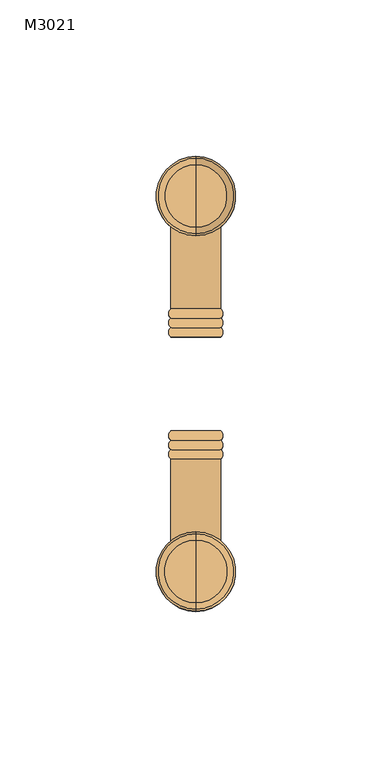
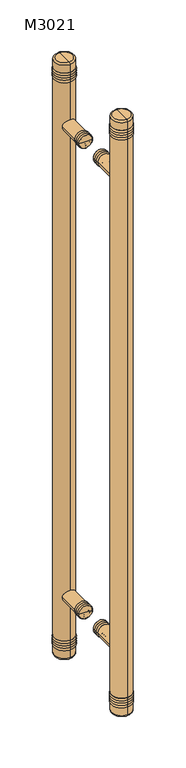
"""IFC4 building model written with IfcOpenShell, lengths in millimetres: door geometry, 双面嵌板连窗玻璃门 3 : M3021."""

from ifc_helpers import new_model, si_unit, point, frame, origin, place, context, project, spatial, circle_curve, ellipse_curve, trimmed, source, transform, mapped, element, save
from ifc_brep_helpers import plane_surface, cylinder_surface, revolved_surface, advanced_brep


def m3021_f616fdb8(model_context):
    return source(origin(), model_context, "Body", "AdvancedBrep", [
        advanced_brep(
        [(60.0, 15.0, 1300.0), (52.0, 15.0, 1300.0), (68.0, 15.0, 1300.0), (68.0, 24.0, 1300.0), (52.0, 24.0, 1300.0), (60.0, 24.0, 1300.0), (68.0, 21.0, 1300.0), (52.0, 21.0, 1300.0), (68.0, 18.0, 1300.0), (52.0, 18.0, 1300.0)],
        [
            (0, 1),
            (1, 2, circle_curve(frame((60.0, 15.0, 1300.0), z_axis=(0.0, -1.0, 0.0), x_axis=(-1.0, 0.0, 0.0)), 8.0)),
            (2, 0),
            (2, 1, circle_curve(frame((60.0, 15.0, 1300.0), z_axis=(0.0, -1.0, 0.0), x_axis=(-1.0, 0.0, 0.0)), 8.0)),
            (3, 4, circle_curve(frame((60.0, 24.0, 1300.0), z_axis=(0.0, 1.0, 0.0), x_axis=(-1.0, 0.0, 0.0)), 8.0)),
            (4, 5),
            (5, 3),
            (4, 3, circle_curve(frame((60.0, 24.0, 1300.0), z_axis=(0.0, 1.0, 0.0), x_axis=(-1.0, 0.0, 0.0)), 8.0)),
            (6, 7, circle_curve(frame((60.0, 21.0, 1300.0), z_axis=(0.0, 1.0, 0.0), x_axis=(-1.0, 0.0, 0.0)), 8.0)),
            (7, 4, circle_curve(frame((53.3228757, 22.5, 1300.0), z_axis=(0.0, 0.0, -1.0), x_axis=(-1.0, 0.0, 0.0)), 2.0)),
            (3, 6, circle_curve(frame((66.6771243, 22.5, 1300.0), z_axis=(0.0, 0.0, -1.0), x_axis=(1.0, 0.0, 0.0)), 2.0)),
            (7, 6, circle_curve(frame((60.0, 21.0, 1300.0), z_axis=(0.0, 1.0, 0.0), x_axis=(-1.0, 0.0, 0.0)), 8.0)),
            (8, 9, circle_curve(frame((60.0, 18.0, 1300.0), z_axis=(0.0, 1.0, 0.0), x_axis=(-1.0, 0.0, 0.0)), 8.0)),
            (9, 7, circle_curve(frame((53.3228757, 19.5, 1300.0), z_axis=(0.0, 0.0, -1.0), x_axis=(-1.0, 0.0, 0.0)), 2.0)),
            (6, 8, circle_curve(frame((66.6771243, 19.5, 1300.0), z_axis=(0.0, 0.0, -1.0), x_axis=(1.0, 0.0, 0.0)), 2.0)),
            (9, 8, circle_curve(frame((60.0, 18.0, 1300.0), z_axis=(0.0, 1.0, 0.0), x_axis=(-1.0, 0.0, 0.0)), 8.0)),
            (1, 9, circle_curve(frame((53.3228757, 16.5, 1300.0), z_axis=(0.0, 0.0, -1.0), x_axis=(-1.0, 0.0, 0.0)), 2.0)),
            (8, 2, circle_curve(frame((66.6771243, 16.5, 1300.0), z_axis=(0.0, 0.0, -1.0), x_axis=(1.0, 0.0, 0.0)), 2.0)),
        ],
        [
            plane_surface(frame((60.0, 15.0, 1300.0), z_axis=(0.0, -1.0, 0.0), x_axis=(-1.0, 0.0, 0.0))),
            plane_surface(frame((60.0, 24.0, 1300.0), z_axis=(0.0, 1.0, 0.0), x_axis=(-1.0, 0.0, 0.0))),
            revolved_surface(trimmed(ellipse_curve(frame((53.3228757, 22.5, 1300.0), z_axis=(0.0, 0.0, 1.0), x_axis=(-1.0, 0.0, 0.0)), 2.0, 2.0), [point((52.0, 24.0, 1300.0))], [point((52.0, 21.0, 1300.0))], True, "CARTESIAN"), (60.0, -105.0, 1300.0), (0.0, -1.0, 0.0)),
            revolved_surface(trimmed(ellipse_curve(frame((53.3228757, 19.5, 1300.0), z_axis=(0.0, 0.0, 1.0), x_axis=(-1.0, 0.0, 0.0)), 2.0, 2.0), [point((52.0, 21.0, 1300.0))], [point((52.0, 18.0, 1300.0))], True, "CARTESIAN"), (60.0, -105.0, 1300.0), (0.0, -1.0, 0.0)),
            revolved_surface(trimmed(ellipse_curve(frame((53.3228757, 16.5, 1300.0), z_axis=(0.0, 0.0, 1.0), x_axis=(-1.0, 0.0, 0.0)), 2.0, 2.0), [point((52.0, 18.0, 1300.0))], [point((52.0, 15.0, 1300.0))], True, "CARTESIAN"), (60.0, -105.0, 1300.0), (0.0, -1.0, 0.0)),
        ],
        [
            (0, [[1, 2, 3]]),
            (0, [[-3, 4, -1]]),
            (1, [[5, 6, 7]]),
            (1, [[8, -7, -6]]),
            (2, [[9, 10, -5, 11]]),
            (2, [[12, -11, -8, -10]]),
            (3, [[13, 14, -9, 15]]),
            (3, [[16, -15, -12, -14]]),
            (4, [[-2, 17, -13, 18]]),
            (4, [[-4, -18, -16, -17]]),
        ],
    ),
        advanced_brep(
        [(68.0, -18.0, 1300.0), (52.0, -18.0, 1300.0), (52.0, -15.0, 1300.0), (68.0, -15.0, 1300.0), (68.0, -21.0, 1300.0), (52.0, -21.0, 1300.0), (68.0, -24.0, 1300.0), (52.0, -24.0, 1300.0), (60.0, -24.0, 1300.0), (60.0, -15.0, 1300.0)],
        [
            (0, 1, circle_curve(frame((60.0, -18.0, 1300.0), z_axis=(0.0, 1.0, 0.0), x_axis=(-1.0, 0.0, 0.0)), 8.0)),
            (1, 2, circle_curve(frame((53.3228757, -16.5, 1300.0), z_axis=(0.0, 0.0, -1.0), x_axis=(-1.0, 0.0, 0.0)), 2.0)),
            (2, 3, circle_curve(frame((60.0, -15.0, 1300.0), z_axis=(0.0, -1.0, 0.0), x_axis=(-1.0, 0.0, 0.0)), 8.0)),
            (3, 0, circle_curve(frame((66.6771243, -16.5, 1300.0), z_axis=(0.0, 0.0, -1.0), x_axis=(1.0, 0.0, 0.0)), 2.0)),
            (1, 0, circle_curve(frame((60.0, -18.0, 1300.0), z_axis=(0.0, 1.0, 0.0), x_axis=(-1.0, 0.0, 0.0)), 8.0)),
            (3, 2, circle_curve(frame((60.0, -15.0, 1300.0), z_axis=(0.0, -1.0, 0.0), x_axis=(-1.0, 0.0, 0.0)), 8.0)),
            (4, 5, circle_curve(frame((60.0, -21.0, 1300.0), z_axis=(0.0, 1.0, 0.0), x_axis=(-1.0, 0.0, 0.0)), 8.0)),
            (5, 1, circle_curve(frame((53.3228757, -19.5, 1300.0), z_axis=(0.0, 0.0, -1.0), x_axis=(-1.0, 0.0, 0.0)), 2.0)),
            (0, 4, circle_curve(frame((66.6771243, -19.5, 1300.0), z_axis=(0.0, 0.0, -1.0), x_axis=(1.0, 0.0, 0.0)), 2.0)),
            (5, 4, circle_curve(frame((60.0, -21.0, 1300.0), z_axis=(0.0, 1.0, 0.0), x_axis=(-1.0, 0.0, 0.0)), 8.0)),
            (6, 7, circle_curve(frame((60.0, -24.0, 1300.0), z_axis=(0.0, 1.0, 0.0), x_axis=(-1.0, 0.0, 0.0)), 8.0)),
            (7, 5, circle_curve(frame((53.3228757, -22.5, 1300.0), z_axis=(0.0, 0.0, -1.0), x_axis=(-1.0, 0.0, 0.0)), 2.0)),
            (4, 6, circle_curve(frame((66.6771243, -22.5, 1300.0), z_axis=(0.0, 0.0, -1.0), x_axis=(1.0, 0.0, 0.0)), 2.0)),
            (7, 6, circle_curve(frame((60.0, -24.0, 1300.0), z_axis=(0.0, 1.0, 0.0), x_axis=(-1.0, 0.0, 0.0)), 8.0)),
            (8, 7),
            (6, 8),
            (2, 9),
            (9, 3),
        ],
        [
            revolved_surface(trimmed(ellipse_curve(frame((53.3228757, -16.5, 1300.0), z_axis=(0.0, 0.0, 1.0), x_axis=(-1.0, 0.0, 0.0)), 2.0, 2.0), [point((52.0, -15.0, 1300.0))], [point((52.0, -18.0, 1300.0))], True, "CARTESIAN"), (60.0, -105.0, 1300.0), (0.0, -1.0, 0.0)),
            revolved_surface(trimmed(ellipse_curve(frame((53.3228757, -19.5, 1300.0), z_axis=(0.0, 0.0, 1.0), x_axis=(-1.0, 0.0, 0.0)), 2.0, 2.0), [point((52.0, -18.0, 1300.0))], [point((52.0, -21.0, 1300.0))], True, "CARTESIAN"), (60.0, -105.0, 1300.0), (0.0, -1.0, 0.0)),
            revolved_surface(trimmed(ellipse_curve(frame((53.3228757, -22.5, 1300.0), z_axis=(0.0, 0.0, 1.0), x_axis=(-1.0, 0.0, 0.0)), 2.0, 2.0), [point((52.0, -21.0, 1300.0))], [point((52.0, -24.0, 1300.0))], True, "CARTESIAN"), (60.0, -105.0, 1300.0), (0.0, -1.0, 0.0)),
            plane_surface(frame((60.0, -24.0, 1300.0), z_axis=(0.0, -1.0, 0.0), x_axis=(-1.0, 0.0, 0.0))),
            plane_surface(frame((60.0, -15.0, 1300.0), z_axis=(0.0, 1.0, 0.0), x_axis=(-1.0, 0.0, 0.0))),
        ],
        [
            (0, [[1, 2, 3, 4]]),
            (0, [[5, -4, 6, -2]]),
            (1, [[7, 8, -1, 9]]),
            (1, [[10, -9, -5, -8]]),
            (2, [[11, 12, -7, 13]]),
            (2, [[14, -13, -10, -12]]),
            (3, [[15, -11, 16]]),
            (3, [[-16, -14, -15]]),
            (4, [[-3, 17, 18]]),
            (4, [[-6, -18, -17]]),
        ],
    ),
        advanced_brep(
        [(60.0, 15.0, 700.0), (52.0, 15.0, 700.0), (68.0, 15.0, 700.0), (68.0, 24.0, 700.0), (52.0, 24.0, 700.0), (60.0, 24.0, 700.0), (68.0, 21.0, 700.0), (52.0, 21.0, 700.0), (68.0, 18.0, 700.0), (52.0, 18.0, 700.0)],
        [
            (0, 1),
            (1, 2, circle_curve(frame((60.0, 15.0, 700.0), z_axis=(0.0, -1.0, 0.0), x_axis=(-1.0, 0.0, 0.0)), 8.0)),
            (2, 0),
            (2, 1, circle_curve(frame((60.0, 15.0, 700.0), z_axis=(0.0, -1.0, 0.0), x_axis=(-1.0, 0.0, 0.0)), 8.0)),
            (3, 4, circle_curve(frame((60.0, 24.0, 700.0), z_axis=(0.0, 1.0, 0.0), x_axis=(-1.0, 0.0, 0.0)), 8.0)),
            (4, 5),
            (5, 3),
            (4, 3, circle_curve(frame((60.0, 24.0, 700.0), z_axis=(0.0, 1.0, 0.0), x_axis=(-1.0, 0.0, 0.0)), 8.0)),
            (6, 7, circle_curve(frame((60.0, 21.0, 700.0), z_axis=(0.0, 1.0, 0.0), x_axis=(-1.0, 0.0, 0.0)), 8.0)),
            (7, 4, circle_curve(frame((53.3228757, 22.5, 700.0), z_axis=(0.0, 0.0, -1.0), x_axis=(-1.0, 0.0, 0.0)), 2.0)),
            (3, 6, circle_curve(frame((66.6771243, 22.5, 700.0), z_axis=(0.0, 0.0, -1.0), x_axis=(1.0, 0.0, 0.0)), 2.0)),
            (7, 6, circle_curve(frame((60.0, 21.0, 700.0), z_axis=(0.0, 1.0, 0.0), x_axis=(-1.0, 0.0, 0.0)), 8.0)),
            (8, 9, circle_curve(frame((60.0, 18.0, 700.0), z_axis=(0.0, 1.0, 0.0), x_axis=(-1.0, 0.0, 0.0)), 8.0)),
            (9, 7, circle_curve(frame((53.3228757, 19.5, 700.0), z_axis=(0.0, 0.0, -1.0), x_axis=(-1.0, 0.0, 0.0)), 2.0)),
            (6, 8, circle_curve(frame((66.6771243, 19.5, 700.0), z_axis=(0.0, 0.0, -1.0), x_axis=(1.0, 0.0, 0.0)), 2.0)),
            (9, 8, circle_curve(frame((60.0, 18.0, 700.0), z_axis=(0.0, 1.0, 0.0), x_axis=(-1.0, 0.0, 0.0)), 8.0)),
            (1, 9, circle_curve(frame((53.3228757, 16.5, 700.0), z_axis=(0.0, 0.0, -1.0), x_axis=(-1.0, 0.0, 0.0)), 2.0)),
            (8, 2, circle_curve(frame((66.6771243, 16.5, 700.0), z_axis=(0.0, 0.0, -1.0), x_axis=(1.0, 0.0, 0.0)), 2.0)),
        ],
        [
            plane_surface(frame((60.0, 15.0, 700.0), z_axis=(0.0, -1.0, 0.0), x_axis=(-1.0, 0.0, 0.0))),
            plane_surface(frame((60.0, 24.0, 700.0), z_axis=(0.0, 1.0, 0.0), x_axis=(-1.0, 0.0, 0.0))),
            revolved_surface(trimmed(ellipse_curve(frame((53.3228757, 22.5, 700.0), z_axis=(0.0, 0.0, 1.0), x_axis=(-1.0, 0.0, 0.0)), 2.0, 2.0), [point((52.0, 24.0, 700.0))], [point((52.0, 21.0, 700.0))], True, "CARTESIAN"), (60.0, -105.0, 700.0), (0.0, -1.0, 0.0)),
            revolved_surface(trimmed(ellipse_curve(frame((53.3228757, 19.5, 700.0), z_axis=(0.0, 0.0, 1.0), x_axis=(-1.0, 0.0, 0.0)), 2.0, 2.0), [point((52.0, 21.0, 700.0))], [point((52.0, 18.0, 700.0))], True, "CARTESIAN"), (60.0, -105.0, 700.0), (0.0, -1.0, 0.0)),
            revolved_surface(trimmed(ellipse_curve(frame((53.3228757, 16.5, 700.0), z_axis=(0.0, 0.0, 1.0), x_axis=(-1.0, 0.0, 0.0)), 2.0, 2.0), [point((52.0, 18.0, 700.0))], [point((52.0, 15.0, 700.0))], True, "CARTESIAN"), (60.0, -105.0, 700.0), (0.0, -1.0, 0.0)),
        ],
        [
            (0, [[1, 2, 3]]),
            (0, [[-3, 4, -1]]),
            (1, [[5, 6, 7]]),
            (1, [[8, -7, -6]]),
            (2, [[9, 10, -5, 11]]),
            (2, [[12, -11, -8, -10]]),
            (3, [[13, 14, -9, 15]]),
            (3, [[16, -15, -12, -14]]),
            (4, [[-2, 17, -13, 18]]),
            (4, [[-4, -18, -16, -17]]),
        ],
    ),
        advanced_brep(
        [(68.0, -18.0, 700.0), (52.0, -18.0, 700.0), (52.0, -15.0, 700.0), (68.0, -15.0, 700.0), (68.0, -21.0, 700.0), (52.0, -21.0, 700.0), (68.0, -24.0, 700.0), (52.0, -24.0, 700.0), (60.0, -24.0, 700.0), (60.0, -15.0, 700.0)],
        [
            (0, 1, circle_curve(frame((60.0, -18.0, 700.0), z_axis=(0.0, 1.0, 0.0), x_axis=(-1.0, 0.0, 0.0)), 8.0)),
            (1, 2, circle_curve(frame((53.3228757, -16.5, 700.0), z_axis=(0.0, 0.0, -1.0), x_axis=(-1.0, 0.0, 0.0)), 2.0)),
            (2, 3, circle_curve(frame((60.0, -15.0, 700.0), z_axis=(0.0, -1.0, 0.0), x_axis=(-1.0, 0.0, 0.0)), 8.0)),
            (3, 0, circle_curve(frame((66.6771243, -16.5, 700.0), z_axis=(0.0, 0.0, -1.0), x_axis=(1.0, 0.0, 0.0)), 2.0)),
            (1, 0, circle_curve(frame((60.0, -18.0, 700.0), z_axis=(0.0, 1.0, 0.0), x_axis=(-1.0, 0.0, 0.0)), 8.0)),
            (3, 2, circle_curve(frame((60.0, -15.0, 700.0), z_axis=(0.0, -1.0, 0.0), x_axis=(-1.0, 0.0, 0.0)), 8.0)),
            (4, 5, circle_curve(frame((60.0, -21.0, 700.0), z_axis=(0.0, 1.0, 0.0), x_axis=(-1.0, 0.0, 0.0)), 8.0)),
            (5, 1, circle_curve(frame((53.3228757, -19.5, 700.0), z_axis=(0.0, 0.0, -1.0), x_axis=(-1.0, 0.0, 0.0)), 2.0)),
            (0, 4, circle_curve(frame((66.6771243, -19.5, 700.0), z_axis=(0.0, 0.0, -1.0), x_axis=(1.0, 0.0, 0.0)), 2.0)),
            (5, 4, circle_curve(frame((60.0, -21.0, 700.0), z_axis=(0.0, 1.0, 0.0), x_axis=(-1.0, 0.0, 0.0)), 8.0)),
            (6, 7, circle_curve(frame((60.0, -24.0, 700.0), z_axis=(0.0, 1.0, 0.0), x_axis=(-1.0, 0.0, 0.0)), 8.0)),
            (7, 5, circle_curve(frame((53.3228757, -22.5, 700.0), z_axis=(0.0, 0.0, -1.0), x_axis=(-1.0, 0.0, 0.0)), 2.0)),
            (4, 6, circle_curve(frame((66.6771243, -22.5, 700.0), z_axis=(0.0, 0.0, -1.0), x_axis=(1.0, 0.0, 0.0)), 2.0)),
            (7, 6, circle_curve(frame((60.0, -24.0, 700.0), z_axis=(0.0, 1.0, 0.0), x_axis=(-1.0, 0.0, 0.0)), 8.0)),
            (8, 7),
            (6, 8),
            (2, 9),
            (9, 3),
        ],
        [
            revolved_surface(trimmed(ellipse_curve(frame((53.3228757, -16.5, 700.0), z_axis=(0.0, 0.0, 1.0), x_axis=(-1.0, 0.0, 0.0)), 2.0, 2.0), [point((52.0, -15.0, 700.0))], [point((52.0, -18.0, 700.0))], True, "CARTESIAN"), (60.0, -105.0, 700.0), (0.0, -1.0, 0.0)),
            revolved_surface(trimmed(ellipse_curve(frame((53.3228757, -19.5, 700.0), z_axis=(0.0, 0.0, 1.0), x_axis=(-1.0, 0.0, 0.0)), 2.0, 2.0), [point((52.0, -18.0, 700.0))], [point((52.0, -21.0, 700.0))], True, "CARTESIAN"), (60.0, -105.0, 700.0), (0.0, -1.0, 0.0)),
            revolved_surface(trimmed(ellipse_curve(frame((53.3228757, -22.5, 700.0), z_axis=(0.0, 0.0, 1.0), x_axis=(-1.0, 0.0, 0.0)), 2.0, 2.0), [point((52.0, -21.0, 700.0))], [point((52.0, -24.0, 700.0))], True, "CARTESIAN"), (60.0, -105.0, 700.0), (0.0, -1.0, 0.0)),
            plane_surface(frame((60.0, -24.0, 700.0), z_axis=(0.0, -1.0, 0.0), x_axis=(-1.0, 0.0, 0.0))),
            plane_surface(frame((60.0, -15.0, 700.0), z_axis=(0.0, 1.0, 0.0), x_axis=(-1.0, 0.0, 0.0))),
        ],
        [
            (0, [[1, 2, 3, 4]]),
            (0, [[5, -4, 6, -2]]),
            (1, [[7, 8, -1, 9]]),
            (1, [[10, -9, -5, -8]]),
            (2, [[11, 12, -7, 13]]),
            (2, [[14, -13, -10, -12]]),
            (3, [[15, -11, 16]]),
            (3, [[-16, -14, -15]]),
            (4, [[-3, 17, 18]]),
            (4, [[-6, -18, -17]]),
        ],
    ),
        advanced_brep(
        [(60.0, 48.0, 1356.0), (60.0, 72.0, 1356.0), (60.0, 60.0, 1356.0), (60.0, 48.0, 1359.0), (60.0, 72.0, 1359.0), (60.0, 48.0, 1362.0), (60.0, 72.0, 1362.0), (60.0, 48.0, 1365.0), (60.0, 72.0, 1365.0), (60.0, 48.0, 1368.0), (60.0, 72.0, 1368.0), (60.0, 60.0, 1368.0)],
        [
            (0, 1, circle_curve(frame((60.0, 60.0, 1356.0), z_axis=(0.0, 0.0, -1.0), x_axis=(0.0, 1.0, 0.0)), 12.0)),
            (1, 2),
            (2, 0),
            (1, 0, circle_curve(frame((60.0, 60.0, 1356.0), z_axis=(0.0, 0.0, -1.0), x_axis=(0.0, 1.0, 0.0)), 12.0)),
            (3, 4, circle_curve(frame((60.0, 60.0, 1359.0), z_axis=(0.0, 0.0, -1.0), x_axis=(0.0, 1.0, 0.0)), 12.0)),
            (4, 1, circle_curve(frame((60.0, 70.6771243, 1357.5), z_axis=(-1.0, 0.0, 0.0), x_axis=(0.0, 1.0, 0.0)), 2.0)),
            (0, 3, circle_curve(frame((60.0, 49.3228757, 1357.5), z_axis=(-1.0, 0.0, 0.0), x_axis=(0.0, -1.0, 0.0)), 2.0)),
            (4, 3, circle_curve(frame((60.0, 60.0, 1359.0), z_axis=(0.0, 0.0, -1.0), x_axis=(0.0, 1.0, 0.0)), 12.0)),
            (5, 6, circle_curve(frame((60.0, 60.0, 1362.0), z_axis=(0.0, 0.0, -1.0), x_axis=(0.0, 1.0, 0.0)), 12.0)),
            (6, 4, circle_curve(frame((60.0, 70.6771243, 1360.5), z_axis=(-1.0, 0.0, 0.0), x_axis=(0.0, 1.0, 0.0)), 2.0)),
            (3, 5, circle_curve(frame((60.0, 49.3228757, 1360.5), z_axis=(-1.0, 0.0, 0.0), x_axis=(0.0, -1.0, 0.0)), 2.0)),
            (6, 5, circle_curve(frame((60.0, 60.0, 1362.0), z_axis=(0.0, 0.0, -1.0), x_axis=(0.0, 1.0, 0.0)), 12.0)),
            (7, 8, circle_curve(frame((60.0, 60.0, 1365.0), z_axis=(0.0, 0.0, -1.0), x_axis=(0.0, 1.0, 0.0)), 12.0)),
            (8, 6, circle_curve(frame((60.0, 70.6771243, 1363.5), z_axis=(-1.0, 0.0, 0.0), x_axis=(0.0, 1.0, 0.0)), 2.0)),
            (5, 7, circle_curve(frame((60.0, 49.3228757, 1363.5), z_axis=(-1.0, 0.0, 0.0), x_axis=(0.0, -1.0, 0.0)), 2.0)),
            (8, 7, circle_curve(frame((60.0, 60.0, 1365.0), z_axis=(0.0, 0.0, -1.0), x_axis=(0.0, 1.0, 0.0)), 12.0)),
            (9, 10, circle_curve(frame((60.0, 60.0, 1368.0), z_axis=(0.0, 0.0, -1.0), x_axis=(0.0, 1.0, 0.0)), 12.0)),
            (10, 8, circle_curve(frame((60.0, 70.6771243, 1366.5), z_axis=(-1.0, 0.0, 0.0), x_axis=(0.0, 1.0, 0.0)), 2.0)),
            (7, 9, circle_curve(frame((60.0, 49.3228757, 1366.5), z_axis=(-1.0, 0.0, 0.0), x_axis=(0.0, -1.0, 0.0)), 2.0)),
            (10, 9, circle_curve(frame((60.0, 60.0, 1368.0), z_axis=(0.0, 0.0, -1.0), x_axis=(0.0, 1.0, 0.0)), 12.0)),
            (11, 10),
            (9, 11),
        ],
        [
            plane_surface(frame((60.0, 60.0, 1356.0), z_axis=(0.0, 0.0, -1.0), x_axis=(0.0, 1.0, 0.0))),
            revolved_surface(trimmed(ellipse_curve(frame((60.0, 70.6771243, 1357.5), z_axis=(1.0, 0.0, 0.0), x_axis=(0.0, 1.0, 0.0)), 2.0, 2.0), [point((60.0, 72.0, 1356.0))], [point((60.0, 72.0, 1359.0))], True, "CARTESIAN"), (60.0, 60.0, 690.0), (0.0, 0.0, 1.0)),
            revolved_surface(trimmed(ellipse_curve(frame((60.0, 70.6771243, 1360.5), z_axis=(1.0, 0.0, 0.0), x_axis=(0.0, 1.0, 0.0)), 2.0, 2.0), [point((60.0, 72.0, 1359.0))], [point((60.0, 72.0, 1362.0))], True, "CARTESIAN"), (60.0, 60.0, 690.0), (0.0, 0.0, 1.0)),
            revolved_surface(trimmed(ellipse_curve(frame((60.0, 70.6771243, 1363.5), z_axis=(1.0, 0.0, 0.0), x_axis=(0.0, 1.0, 0.0)), 2.0, 2.0), [point((60.0, 72.0, 1362.0))], [point((60.0, 72.0, 1365.0))], True, "CARTESIAN"), (60.0, 60.0, 690.0), (0.0, 0.0, 1.0)),
            revolved_surface(trimmed(ellipse_curve(frame((60.0, 70.6771243, 1366.5), z_axis=(1.0, 0.0, 0.0), x_axis=(0.0, 1.0, 0.0)), 2.0, 2.0), [point((60.0, 72.0, 1365.0))], [point((60.0, 72.0, 1368.0))], True, "CARTESIAN"), (60.0, 60.0, 690.0), (0.0, 0.0, 1.0)),
            plane_surface(frame((60.0, 60.0, 1368.0), z_axis=(0.0, 0.0, 1.0), x_axis=(0.0, 1.0, 0.0))),
        ],
        [
            (0, [[1, 2, 3]]),
            (0, [[4, -3, -2]]),
            (1, [[5, 6, -1, 7]]),
            (1, [[8, -7, -4, -6]]),
            (2, [[9, 10, -5, 11]]),
            (2, [[12, -11, -8, -10]]),
            (3, [[13, 14, -9, 15]]),
            (3, [[16, -15, -12, -14]]),
            (4, [[17, 18, -13, 19]]),
            (4, [[20, -19, -16, -18]]),
            (5, [[21, -17, 22]]),
            (5, [[-22, -20, -21]]),
        ],
    ),
        advanced_brep(
        [(60.0, 48.0, 632.0), (60.0, 72.0, 632.0), (60.0, 60.0, 632.0), (60.0, 48.0, 635.0), (60.0, 72.0, 635.0), (60.0, 48.0, 638.0), (60.0, 72.0, 638.0), (60.0, 48.0, 641.0), (60.0, 72.0, 641.0), (60.0, 48.0, 644.0), (60.0, 72.0, 644.0), (60.0, 60.0, 644.0)],
        [
            (0, 1, circle_curve(frame((60.0, 60.0, 632.0), z_axis=(0.0, 0.0, -1.0), x_axis=(0.0, 1.0, 0.0)), 12.0)),
            (1, 2),
            (2, 0),
            (1, 0, circle_curve(frame((60.0, 60.0, 632.0), z_axis=(0.0, 0.0, -1.0), x_axis=(0.0, 1.0, 0.0)), 12.0)),
            (3, 4, circle_curve(frame((60.0, 60.0, 635.0), z_axis=(0.0, 0.0, -1.0), x_axis=(0.0, 1.0, 0.0)), 12.0)),
            (4, 1, circle_curve(frame((60.0, 70.6771243, 633.5), z_axis=(-1.0, 0.0, 0.0), x_axis=(0.0, 1.0, 0.0)), 2.0)),
            (0, 3, circle_curve(frame((60.0, 49.3228757, 633.5), z_axis=(-1.0, 0.0, 0.0), x_axis=(0.0, -1.0, 0.0)), 2.0)),
            (4, 3, circle_curve(frame((60.0, 60.0, 635.0), z_axis=(0.0, 0.0, -1.0), x_axis=(0.0, 1.0, 0.0)), 12.0)),
            (5, 6, circle_curve(frame((60.0, 60.0, 638.0), z_axis=(0.0, 0.0, -1.0), x_axis=(0.0, 1.0, 0.0)), 12.0)),
            (6, 4, circle_curve(frame((60.0, 70.6771243, 636.5), z_axis=(-1.0, 0.0, 0.0), x_axis=(0.0, 1.0, 0.0)), 2.0)),
            (3, 5, circle_curve(frame((60.0, 49.3228757, 636.5), z_axis=(-1.0, 0.0, 0.0), x_axis=(0.0, -1.0, 0.0)), 2.0)),
            (6, 5, circle_curve(frame((60.0, 60.0, 638.0), z_axis=(0.0, 0.0, -1.0), x_axis=(0.0, 1.0, 0.0)), 12.0)),
            (7, 8, circle_curve(frame((60.0, 60.0, 641.0), z_axis=(0.0, 0.0, -1.0), x_axis=(0.0, 1.0, 0.0)), 12.0)),
            (8, 6, circle_curve(frame((60.0, 70.6771243, 639.5), z_axis=(-1.0, 0.0, 0.0), x_axis=(0.0, 1.0, 0.0)), 2.0)),
            (5, 7, circle_curve(frame((60.0, 49.3228757, 639.5), z_axis=(-1.0, 0.0, 0.0), x_axis=(0.0, -1.0, 0.0)), 2.0)),
            (8, 7, circle_curve(frame((60.0, 60.0, 641.0), z_axis=(0.0, 0.0, -1.0), x_axis=(0.0, 1.0, 0.0)), 12.0)),
            (9, 10, circle_curve(frame((60.0, 60.0, 644.0), z_axis=(0.0, 0.0, -1.0), x_axis=(0.0, 1.0, 0.0)), 12.0)),
            (10, 8, circle_curve(frame((60.0, 70.6771243, 642.5), z_axis=(-1.0, 0.0, 0.0), x_axis=(0.0, 1.0, 0.0)), 2.0)),
            (7, 9, circle_curve(frame((60.0, 49.3228757, 642.5), z_axis=(-1.0, 0.0, 0.0), x_axis=(0.0, -1.0, 0.0)), 2.0)),
            (10, 9, circle_curve(frame((60.0, 60.0, 644.0), z_axis=(0.0, 0.0, -1.0), x_axis=(0.0, 1.0, 0.0)), 12.0)),
            (11, 10),
            (9, 11),
        ],
        [
            plane_surface(frame((60.0, 60.0, 632.0), z_axis=(0.0, 0.0, -1.0), x_axis=(0.0, 1.0, 0.0))),
            revolved_surface(trimmed(ellipse_curve(frame((60.0, 70.6771243, 633.5), z_axis=(1.0, 0.0, 0.0), x_axis=(0.0, 1.0, 0.0)), 2.0, 2.0), [point((60.0, 72.0, 632.0))], [point((60.0, 72.0, 635.0))], True, "CARTESIAN"), (60.0, 60.0, 690.0), (0.0, 0.0, 1.0)),
            revolved_surface(trimmed(ellipse_curve(frame((60.0, 70.6771243, 636.5), z_axis=(1.0, 0.0, 0.0), x_axis=(0.0, 1.0, 0.0)), 2.0, 2.0), [point((60.0, 72.0, 635.0))], [point((60.0, 72.0, 638.0))], True, "CARTESIAN"), (60.0, 60.0, 690.0), (0.0, 0.0, 1.0)),
            revolved_surface(trimmed(ellipse_curve(frame((60.0, 70.6771243, 639.5), z_axis=(1.0, 0.0, 0.0), x_axis=(0.0, 1.0, 0.0)), 2.0, 2.0), [point((60.0, 72.0, 638.0))], [point((60.0, 72.0, 641.0))], True, "CARTESIAN"), (60.0, 60.0, 690.0), (0.0, 0.0, 1.0)),
            revolved_surface(trimmed(ellipse_curve(frame((60.0, 70.6771243, 642.5), z_axis=(1.0, 0.0, 0.0), x_axis=(0.0, 1.0, 0.0)), 2.0, 2.0), [point((60.0, 72.0, 641.0))], [point((60.0, 72.0, 644.0))], True, "CARTESIAN"), (60.0, 60.0, 690.0), (0.0, 0.0, 1.0)),
            plane_surface(frame((60.0, 60.0, 644.0), z_axis=(0.0, 0.0, 1.0), x_axis=(0.0, 1.0, 0.0))),
        ],
        [
            (0, [[1, 2, 3]]),
            (0, [[4, -3, -2]]),
            (1, [[5, 6, -1, 7]]),
            (1, [[8, -7, -4, -6]]),
            (2, [[9, 10, -5, 11]]),
            (2, [[12, -11, -8, -10]]),
            (3, [[13, 14, -9, 15]]),
            (3, [[16, -15, -12, -14]]),
            (4, [[17, 18, -13, 19]]),
            (4, [[20, -19, -16, -18]]),
            (5, [[21, -17, 22]]),
            (5, [[-22, -20, -21]]),
        ],
    ),
        advanced_brep(
        [(60.0, -48.0, 1364.8958565), (60.0, -72.0, 1364.8958565), (60.0, -72.0, 1367.8958565), (60.0, -48.0, 1367.8958565), (60.0, -48.0, 1361.8958565), (60.0, -72.0, 1361.8958565), (60.0, -48.0, 1358.8958565), (60.0, -72.0, 1358.8958565), (60.0, -48.0, 1355.8958565), (60.0, -72.0, 1355.8958565), (60.0, -60.0, 1355.8958565), (60.0, -60.0, 1367.8958565)],
        [
            (0, 1, circle_curve(frame((60.0, -60.0, 1364.8958565), z_axis=(0.0, 0.0, 1.0), x_axis=(0.0, -1.0, 0.0)), 12.0)),
            (1, 2, circle_curve(frame((60.0, -70.6771243, 1366.3958565), z_axis=(-1.0, 0.0, 0.0), x_axis=(0.0, 1.0, 0.0)), 2.0)),
            (2, 3, circle_curve(frame((60.0, -60.0, 1367.8958565), z_axis=(0.0, 0.0, -1.0), x_axis=(0.0, -1.0, 0.0)), 12.0)),
            (3, 0, circle_curve(frame((60.0, -49.3228757, 1366.3958565), z_axis=(-1.0, 0.0, 0.0), x_axis=(0.0, -1.0, 0.0)), 2.0)),
            (1, 0, circle_curve(frame((60.0, -60.0, 1364.8958565), z_axis=(0.0, 0.0, 1.0), x_axis=(0.0, -1.0, 0.0)), 12.0)),
            (3, 2, circle_curve(frame((60.0, -60.0, 1367.8958565), z_axis=(0.0, 0.0, -1.0), x_axis=(0.0, -1.0, 0.0)), 12.0)),
            (4, 5, circle_curve(frame((60.0, -60.0, 1361.8958565), z_axis=(0.0, 0.0, 1.0), x_axis=(0.0, -1.0, 0.0)), 12.0)),
            (5, 1, circle_curve(frame((60.0, -70.6771243, 1363.3958565), z_axis=(-1.0, 0.0, 0.0), x_axis=(0.0, 1.0, 0.0)), 2.0)),
            (0, 4, circle_curve(frame((60.0, -49.3228757, 1363.3958565), z_axis=(-1.0, 0.0, 0.0), x_axis=(0.0, -1.0, 0.0)), 2.0)),
            (5, 4, circle_curve(frame((60.0, -60.0, 1361.8958565), z_axis=(0.0, 0.0, 1.0), x_axis=(0.0, -1.0, 0.0)), 12.0)),
            (6, 7, circle_curve(frame((60.0, -60.0, 1358.8958565), z_axis=(0.0, 0.0, 1.0), x_axis=(0.0, -1.0, 0.0)), 12.0)),
            (7, 5, circle_curve(frame((60.0, -70.6771243, 1360.3958565), z_axis=(-1.0, 0.0, 0.0), x_axis=(0.0, 1.0, 0.0)), 2.0)),
            (4, 6, circle_curve(frame((60.0, -49.3228757, 1360.3958565), z_axis=(-1.0, 0.0, 0.0), x_axis=(0.0, -1.0, 0.0)), 2.0)),
            (7, 6, circle_curve(frame((60.0, -60.0, 1358.8958565), z_axis=(0.0, 0.0, 1.0), x_axis=(0.0, -1.0, 0.0)), 12.0)),
            (8, 9, circle_curve(frame((60.0, -60.0, 1355.8958565), z_axis=(0.0, 0.0, 1.0), x_axis=(0.0, -1.0, 0.0)), 12.0)),
            (9, 7, circle_curve(frame((60.0, -70.6771243, 1357.3958565), z_axis=(-1.0, 0.0, 0.0), x_axis=(0.0, 1.0, 0.0)), 2.0)),
            (6, 8, circle_curve(frame((60.0, -49.3228757, 1357.3958565), z_axis=(-1.0, 0.0, 0.0), x_axis=(0.0, -1.0, 0.0)), 2.0)),
            (9, 8, circle_curve(frame((60.0, -60.0, 1355.8958565), z_axis=(0.0, 0.0, 1.0), x_axis=(0.0, -1.0, 0.0)), 12.0)),
            (10, 9),
            (8, 10),
            (2, 11),
            (11, 3),
        ],
        [
            revolved_surface(trimmed(ellipse_curve(frame((60.0, -70.6771243, 1366.3958565), z_axis=(1.0, 0.0, 0.0), x_axis=(0.0, 1.0, 0.0)), 2.0, 2.0), [point((60.0, -72.0, 1367.8958565))], [point((60.0, -72.0, 1364.8958565))], True, "CARTESIAN"), (60.0, -60.0, 690.0), (0.0, 0.0, -1.0)),
            revolved_surface(trimmed(ellipse_curve(frame((60.0, -70.6771243, 1363.3958565), z_axis=(1.0, 0.0, 0.0), x_axis=(0.0, 1.0, 0.0)), 2.0, 2.0), [point((60.0, -72.0, 1364.8958565))], [point((60.0, -72.0, 1361.8958565))], True, "CARTESIAN"), (60.0, -60.0, 690.0), (0.0, 0.0, -1.0)),
            revolved_surface(trimmed(ellipse_curve(frame((60.0, -70.6771243, 1360.3958565), z_axis=(1.0, 0.0, 0.0), x_axis=(0.0, 1.0, 0.0)), 2.0, 2.0), [point((60.0, -72.0, 1361.8958565))], [point((60.0, -72.0, 1358.8958565))], True, "CARTESIAN"), (60.0, -60.0, 690.0), (0.0, 0.0, -1.0)),
            revolved_surface(trimmed(ellipse_curve(frame((60.0, -70.6771243, 1357.3958565), z_axis=(1.0, 0.0, 0.0), x_axis=(0.0, 1.0, 0.0)), 2.0, 2.0), [point((60.0, -72.0, 1358.8958565))], [point((60.0, -72.0, 1355.8958565))], True, "CARTESIAN"), (60.0, -60.0, 690.0), (0.0, 0.0, -1.0)),
            plane_surface(frame((60.0, -60.0, 1355.8958565), z_axis=(0.0, 0.0, -1.0), x_axis=(0.0, -1.0, 0.0))),
            plane_surface(frame((60.0, -60.0, 1367.8958565), z_axis=(0.0, 0.0, 1.0), x_axis=(0.0, -1.0, 0.0))),
        ],
        [
            (0, [[1, 2, 3, 4]]),
            (0, [[5, -4, 6, -2]]),
            (1, [[7, 8, -1, 9]]),
            (1, [[10, -9, -5, -8]]),
            (2, [[11, 12, -7, 13]]),
            (2, [[14, -13, -10, -12]]),
            (3, [[15, 16, -11, 17]]),
            (3, [[18, -17, -14, -16]]),
            (4, [[19, -15, 20]]),
            (4, [[-20, -18, -19]]),
            (5, [[-3, 21, 22]]),
            (5, [[-6, -22, -21]]),
        ],
    ),
        advanced_brep(
        [(60.0, -48.0, 644.0), (60.0, -72.0, 644.0), (60.0, -60.0, 644.0), (60.0, -48.0, 641.0), (60.0, -72.0, 641.0), (60.0, -48.0, 638.0), (60.0, -72.0, 638.0), (60.0, -48.0, 635.0), (60.0, -72.0, 635.0), (60.0, -48.0, 632.0), (60.0, -72.0, 632.0), (60.0, -60.0, 632.0)],
        [
            (0, 1, circle_curve(frame((60.0, -60.0, 644.0), z_axis=(0.0, 0.0, 1.0), x_axis=(0.0, -1.0, 0.0)), 12.0)),
            (1, 2),
            (2, 0),
            (1, 0, circle_curve(frame((60.0, -60.0, 644.0), z_axis=(0.0, 0.0, 1.0), x_axis=(0.0, -1.0, 0.0)), 12.0)),
            (3, 4, circle_curve(frame((60.0, -60.0, 641.0), z_axis=(0.0, 0.0, 1.0), x_axis=(0.0, -1.0, 0.0)), 12.0)),
            (4, 1, circle_curve(frame((60.0, -70.6771243, 642.5), z_axis=(-1.0, 0.0, 0.0), x_axis=(0.0, 1.0, 0.0)), 2.0)),
            (0, 3, circle_curve(frame((60.0, -49.3228757, 642.5), z_axis=(-1.0, 0.0, 0.0), x_axis=(0.0, -1.0, 0.0)), 2.0)),
            (4, 3, circle_curve(frame((60.0, -60.0, 641.0), z_axis=(0.0, 0.0, 1.0), x_axis=(0.0, -1.0, 0.0)), 12.0)),
            (5, 6, circle_curve(frame((60.0, -60.0, 638.0), z_axis=(0.0, 0.0, 1.0), x_axis=(0.0, -1.0, 0.0)), 12.0)),
            (6, 4, circle_curve(frame((60.0, -70.6771243, 639.5), z_axis=(-1.0, 0.0, 0.0), x_axis=(0.0, 1.0, 0.0)), 2.0)),
            (3, 5, circle_curve(frame((60.0, -49.3228757, 639.5), z_axis=(-1.0, 0.0, 0.0), x_axis=(0.0, -1.0, 0.0)), 2.0)),
            (6, 5, circle_curve(frame((60.0, -60.0, 638.0), z_axis=(0.0, 0.0, 1.0), x_axis=(0.0, -1.0, 0.0)), 12.0)),
            (7, 8, circle_curve(frame((60.0, -60.0, 635.0), z_axis=(0.0, 0.0, 1.0), x_axis=(0.0, -1.0, 0.0)), 12.0)),
            (8, 6, circle_curve(frame((60.0, -70.6771243, 636.5), z_axis=(-1.0, 0.0, 0.0), x_axis=(0.0, 1.0, 0.0)), 2.0)),
            (5, 7, circle_curve(frame((60.0, -49.3228757, 636.5), z_axis=(-1.0, 0.0, 0.0), x_axis=(0.0, -1.0, 0.0)), 2.0)),
            (8, 7, circle_curve(frame((60.0, -60.0, 635.0), z_axis=(0.0, 0.0, 1.0), x_axis=(0.0, -1.0, 0.0)), 12.0)),
            (9, 10, circle_curve(frame((60.0, -60.0, 632.0), z_axis=(0.0, 0.0, 1.0), x_axis=(0.0, -1.0, 0.0)), 12.0)),
            (10, 8, circle_curve(frame((60.0, -70.6771243, 633.5), z_axis=(-1.0, 0.0, 0.0), x_axis=(0.0, 1.0, 0.0)), 2.0)),
            (7, 9, circle_curve(frame((60.0, -49.3228757, 633.5), z_axis=(-1.0, 0.0, 0.0), x_axis=(0.0, -1.0, 0.0)), 2.0)),
            (10, 9, circle_curve(frame((60.0, -60.0, 632.0), z_axis=(0.0, 0.0, 1.0), x_axis=(0.0, -1.0, 0.0)), 12.0)),
            (11, 10),
            (9, 11),
        ],
        [
            plane_surface(frame((60.0, -60.0, 644.0), z_axis=(0.0, 0.0, 1.0), x_axis=(0.0, -1.0, 0.0))),
            revolved_surface(trimmed(ellipse_curve(frame((60.0, -70.6771243, 642.5), z_axis=(1.0, 0.0, 0.0), x_axis=(0.0, 1.0, 0.0)), 2.0, 2.0), [point((60.0, -72.0, 644.0))], [point((60.0, -72.0, 641.0))], True, "CARTESIAN"), (60.0, -60.0, 690.0), (0.0, 0.0, -1.0)),
            revolved_surface(trimmed(ellipse_curve(frame((60.0, -70.6771243, 639.5), z_axis=(1.0, 0.0, 0.0), x_axis=(0.0, 1.0, 0.0)), 2.0, 2.0), [point((60.0, -72.0, 641.0))], [point((60.0, -72.0, 638.0))], True, "CARTESIAN"), (60.0, -60.0, 690.0), (0.0, 0.0, -1.0)),
            revolved_surface(trimmed(ellipse_curve(frame((60.0, -70.6771243, 636.5), z_axis=(1.0, 0.0, 0.0), x_axis=(0.0, 1.0, 0.0)), 2.0, 2.0), [point((60.0, -72.0, 638.0))], [point((60.0, -72.0, 635.0))], True, "CARTESIAN"), (60.0, -60.0, 690.0), (0.0, 0.0, -1.0)),
            revolved_surface(trimmed(ellipse_curve(frame((60.0, -70.6771243, 633.5), z_axis=(1.0, 0.0, 0.0), x_axis=(0.0, 1.0, 0.0)), 2.0, 2.0), [point((60.0, -72.0, 635.0))], [point((60.0, -72.0, 632.0))], True, "CARTESIAN"), (60.0, -60.0, 690.0), (0.0, 0.0, -1.0)),
            plane_surface(frame((60.0, -60.0, 632.0), z_axis=(0.0, 0.0, -1.0), x_axis=(0.0, -1.0, 0.0))),
        ],
        [
            (0, [[1, 2, 3]]),
            (0, [[4, -3, -2]]),
            (1, [[5, 6, -1, 7]]),
            (1, [[8, -7, -4, -6]]),
            (2, [[9, 10, -5, 11]]),
            (2, [[12, -11, -8, -10]]),
            (3, [[13, 14, -9, 15]]),
            (3, [[16, -15, -12, -14]]),
            (4, [[17, 18, -13, 19]]),
            (4, [[20, -19, -16, -18]]),
            (5, [[21, -17, 22]]),
            (5, [[-22, -20, -21]]),
        ],
    ),
        advanced_brep(
        [(60.0, 48.0, 622.0), (60.0, 72.0, 622.0), (60.0, 70.0, 620.0), (60.0, 50.0, 620.0), (60.0, 48.0, 1378.0), (60.0, 72.0, 1378.0), (60.0, 50.0, 1380.0), (60.0, 70.0, 1380.0), (60.0, 60.0, 1380.0), (60.0, 60.0, 620.0)],
        [
            (0, 1, circle_curve(frame((60.0, 60.0, 622.0), z_axis=(0.0, 0.0, -1.0), x_axis=(0.0, 1.0, 0.0)), 12.0)),
            (1, 2, circle_curve(frame((60.0, 70.0, 622.0), z_axis=(-1.0, 0.0, 0.0), x_axis=(0.0, 1.0, 0.0)), 2.0)),
            (2, 3, circle_curve(frame((60.0, 60.0, 620.0), z_axis=(0.0, 0.0, 1.0), x_axis=(0.0, 1.0, 0.0)), 10.0)),
            (3, 0, circle_curve(frame((60.0, 50.0, 622.0), z_axis=(-1.0, 0.0, 0.0), x_axis=(0.0, -1.0, 0.0)), 2.0)),
            (1, 0, circle_curve(frame((60.0, 60.0, 622.0), z_axis=(0.0, 0.0, -1.0), x_axis=(0.0, 1.0, 0.0)), 12.0)),
            (3, 2, circle_curve(frame((60.0, 60.0, 620.0), z_axis=(0.0, 0.0, 1.0), x_axis=(0.0, 1.0, 0.0)), 10.0)),
            (4, 5, circle_curve(frame((60.0, 60.0, 1378.0), z_axis=(0.0, 0.0, -1.0), x_axis=(0.0, 1.0, 0.0)), 12.0)),
            (5, 1),
            (0, 4),
            (5, 4, circle_curve(frame((60.0, 60.0, 1378.0), z_axis=(0.0, 0.0, -1.0), x_axis=(0.0, 1.0, 0.0)), 12.0)),
            (6, 7, circle_curve(frame((60.0, 60.0, 1380.0), z_axis=(0.0, 0.0, -1.0), x_axis=(0.0, 1.0, 0.0)), 10.0)),
            (7, 5, circle_curve(frame((60.0, 70.0, 1378.0), z_axis=(-1.0, 0.0, 0.0), x_axis=(0.0, 1.0, 0.0)), 2.0)),
            (4, 6, circle_curve(frame((60.0, 50.0, 1378.0), z_axis=(-1.0, 0.0, 0.0), x_axis=(0.0, -1.0, 0.0)), 2.0)),
            (7, 6, circle_curve(frame((60.0, 60.0, 1380.0), z_axis=(0.0, 0.0, -1.0), x_axis=(0.0, 1.0, 0.0)), 10.0)),
            (8, 7),
            (6, 8),
            (2, 9),
            (9, 3),
        ],
        [
            revolved_surface(trimmed(ellipse_curve(frame((60.0, 70.0, 622.0), z_axis=(1.0, 0.0, 0.0), x_axis=(0.0, 1.0, 0.0)), 2.0, 2.0), [point((60.0, 70.0, 620.0))], [point((60.0, 72.0, 622.0))], True, "CARTESIAN"), (60.0, 60.0, 690.0), (0.0, 0.0, 1.0)),
            cylinder_surface(frame((60.0, 60.0, 690.0), z_axis=(0.0, 0.0, 1.0), x_axis=(0.0, 1.0, 0.0)), 12.0),
            revolved_surface(trimmed(ellipse_curve(frame((60.0, 70.0, 1378.0), z_axis=(1.0, 0.0, 0.0), x_axis=(0.0, 1.0, 0.0)), 2.0, 2.0), [point((60.0, 72.0, 1378.0))], [point((60.0, 70.0, 1380.0))], True, "CARTESIAN"), (60.0, 60.0, 690.0), (0.0, 0.0, 1.0)),
            plane_surface(frame((60.0, 60.0, 1380.0), z_axis=(0.0, 0.0, 1.0), x_axis=(0.0, 1.0, 0.0))),
            plane_surface(frame((60.0, 60.0, 620.0), z_axis=(0.0, 0.0, -1.0), x_axis=(0.0, 1.0, 0.0))),
        ],
        [
            (0, [[1, 2, 3, 4]]),
            (0, [[5, -4, 6, -2]]),
            (1, [[7, 8, -1, 9]]),
            (1, [[10, -9, -5, -8]]),
            (2, [[11, 12, -7, 13]]),
            (2, [[14, -13, -10, -12]]),
            (3, [[15, -11, 16]]),
            (3, [[-16, -14, -15]]),
            (4, [[-3, 17, 18]]),
            (4, [[-6, -18, -17]]),
        ],
    ),
        advanced_brep(
        [(60.0, -60.0, 620.0), (60.0, -70.0, 620.0), (60.0, -50.0, 620.0), (60.0, -50.0, 1380.0), (60.0, -70.0, 1380.0), (60.0, -60.0, 1380.0), (60.0, -48.0, 1378.0), (60.0, -72.0, 1378.0), (60.0, -48.0, 622.0), (60.0, -72.0, 622.0)],
        [
            (0, 1),
            (1, 2, circle_curve(frame((60.0, -60.0, 620.0), z_axis=(0.0, 0.0, -1.0), x_axis=(0.0, -1.0, 0.0)), 10.0)),
            (2, 0),
            (2, 1, circle_curve(frame((60.0, -60.0, 620.0), z_axis=(0.0, 0.0, -1.0), x_axis=(0.0, -1.0, 0.0)), 10.0)),
            (3, 4, circle_curve(frame((60.0, -60.0, 1380.0), z_axis=(0.0, 0.0, 1.0), x_axis=(0.0, -1.0, 0.0)), 10.0)),
            (4, 5),
            (5, 3),
            (4, 3, circle_curve(frame((60.0, -60.0, 1380.0), z_axis=(0.0, 0.0, 1.0), x_axis=(0.0, -1.0, 0.0)), 10.0)),
            (6, 7, circle_curve(frame((60.0, -60.0, 1378.0), z_axis=(0.0, 0.0, 1.0), x_axis=(0.0, -1.0, 0.0)), 12.0)),
            (7, 4, circle_curve(frame((60.0, -70.0, 1378.0), z_axis=(-1.0, 0.0, 0.0), x_axis=(0.0, 1.0, 0.0)), 2.0)),
            (3, 6, circle_curve(frame((60.0, -50.0, 1378.0), z_axis=(-1.0, 0.0, 0.0), x_axis=(0.0, -1.0, 0.0)), 2.0)),
            (7, 6, circle_curve(frame((60.0, -60.0, 1378.0), z_axis=(0.0, 0.0, 1.0), x_axis=(0.0, -1.0, 0.0)), 12.0)),
            (8, 9, circle_curve(frame((60.0, -60.0, 622.0), z_axis=(0.0, 0.0, 1.0), x_axis=(0.0, -1.0, 0.0)), 12.0)),
            (9, 7),
            (6, 8),
            (9, 8, circle_curve(frame((60.0, -60.0, 622.0), z_axis=(0.0, 0.0, 1.0), x_axis=(0.0, -1.0, 0.0)), 12.0)),
            (1, 9, circle_curve(frame((60.0, -70.0, 622.0), z_axis=(-1.0, 0.0, 0.0), x_axis=(0.0, 1.0, 0.0)), 2.0)),
            (8, 2, circle_curve(frame((60.0, -50.0, 622.0), z_axis=(-1.0, 0.0, 0.0), x_axis=(0.0, -1.0, 0.0)), 2.0)),
        ],
        [
            plane_surface(frame((60.0, -60.0, 620.0), z_axis=(0.0, 0.0, -1.0), x_axis=(0.0, -1.0, 0.0))),
            plane_surface(frame((60.0, -60.0, 1380.0), z_axis=(0.0, 0.0, 1.0), x_axis=(0.0, -1.0, 0.0))),
            revolved_surface(trimmed(ellipse_curve(frame((60.0, -70.0, 1378.0), z_axis=(1.0, 0.0, 0.0), x_axis=(0.0, 1.0, 0.0)), 2.0, 2.0), [point((60.0, -70.0, 1380.0))], [point((60.0, -72.0, 1378.0))], True, "CARTESIAN"), (60.0, -60.0, 690.0), (0.0, 0.0, -1.0)),
            cylinder_surface(frame((60.0, -60.0, 690.0), z_axis=(0.0, 0.0, -1.0), x_axis=(0.0, -1.0, 0.0)), 12.0),
            revolved_surface(trimmed(ellipse_curve(frame((60.0, -70.0, 622.0), z_axis=(1.0, 0.0, 0.0), x_axis=(0.0, 1.0, 0.0)), 2.0, 2.0), [point((60.0, -72.0, 622.0))], [point((60.0, -70.0, 620.0))], True, "CARTESIAN"), (60.0, -60.0, 690.0), (0.0, 0.0, -1.0)),
        ],
        [
            (0, [[1, 2, 3]]),
            (0, [[-3, 4, -1]]),
            (1, [[5, 6, 7]]),
            (1, [[8, -7, -6]]),
            (2, [[9, 10, -5, 11]]),
            (2, [[12, -11, -8, -10]]),
            (3, [[13, 14, -9, 15]]),
            (3, [[16, -15, -12, -14]]),
            (4, [[-2, 17, -13, 18]]),
            (4, [[-4, -18, -16, -17]]),
        ],
    ),
        advanced_brep(
        [(68.0, -60.0, 1300.0), (52.0, -60.0, 1300.0), (52.0, -15.0, 1300.0), (68.0, -15.0, 1300.0), (60.0, -60.0, 1300.0), (60.0, -15.0, 1300.0)],
        [
            (0, 1, circle_curve(frame((60.0, -60.0, 1300.0), z_axis=(0.0, 1.0, 0.0), x_axis=(-1.0, 0.0, 0.0)), 8.0)),
            (1, 2),
            (2, 3, circle_curve(frame((60.0, -15.0, 1300.0), z_axis=(0.0, -1.0, 0.0), x_axis=(-1.0, 0.0, 0.0)), 8.0)),
            (3, 0),
            (1, 0, circle_curve(frame((60.0, -60.0, 1300.0), z_axis=(0.0, 1.0, 0.0), x_axis=(-1.0, 0.0, 0.0)), 8.0)),
            (3, 2, circle_curve(frame((60.0, -15.0, 1300.0), z_axis=(0.0, -1.0, 0.0), x_axis=(-1.0, 0.0, 0.0)), 8.0)),
            (4, 1),
            (0, 4),
            (2, 5),
            (5, 3),
        ],
        [
            cylinder_surface(frame((60.0, -155.0, 1300.0), z_axis=(0.0, -1.0, 0.0), x_axis=(-1.0, 0.0, 0.0)), 8.0),
            plane_surface(frame((60.0, -60.0, 1300.0), z_axis=(0.0, -1.0, 0.0), x_axis=(-1.0, 0.0, 0.0))),
            plane_surface(frame((60.0, -15.0, 1300.0), z_axis=(0.0, 1.0, 0.0), x_axis=(-1.0, 0.0, 0.0))),
        ],
        [
            (0, [[1, 2, 3, 4]]),
            (0, [[5, -4, 6, -2]]),
            (1, [[7, -1, 8]]),
            (1, [[-8, -5, -7]]),
            (2, [[-3, 9, 10]]),
            (2, [[-6, -10, -9]]),
        ],
    ),
        advanced_brep(
        [(60.0, 15.0, 1300.0), (52.0, 15.0, 1300.0), (68.0, 15.0, 1300.0), (68.0, 60.0, 1300.0), (52.0, 60.0, 1300.0), (60.0, 60.0, 1300.0)],
        [
            (0, 1),
            (1, 2, circle_curve(frame((60.0, 15.0, 1300.0), z_axis=(0.0, -1.0, 0.0), x_axis=(-1.0, 0.0, 0.0)), 8.0)),
            (2, 0),
            (2, 1, circle_curve(frame((60.0, 15.0, 1300.0), z_axis=(0.0, -1.0, 0.0), x_axis=(-1.0, 0.0, 0.0)), 8.0)),
            (3, 4, circle_curve(frame((60.0, 60.0, 1300.0), z_axis=(0.0, 1.0, 0.0), x_axis=(-1.0, 0.0, 0.0)), 8.0)),
            (4, 5),
            (5, 3),
            (4, 3, circle_curve(frame((60.0, 60.0, 1300.0), z_axis=(0.0, 1.0, 0.0), x_axis=(-1.0, 0.0, 0.0)), 8.0)),
            (1, 4),
            (3, 2),
        ],
        [
            plane_surface(frame((60.0, 15.0, 1300.0), z_axis=(0.0, -1.0, 0.0), x_axis=(-1.0, 0.0, 0.0))),
            plane_surface(frame((60.0, 60.0, 1300.0), z_axis=(0.0, 1.0, 0.0), x_axis=(-1.0, 0.0, 0.0))),
            cylinder_surface(frame((60.0, -155.0, 1300.0), z_axis=(0.0, -1.0, 0.0), x_axis=(-1.0, 0.0, 0.0)), 8.0),
        ],
        [
            (0, [[1, 2, 3]]),
            (0, [[-3, 4, -1]]),
            (1, [[5, 6, 7]]),
            (1, [[8, -7, -6]]),
            (2, [[-2, 9, -5, 10]]),
            (2, [[-4, -10, -8, -9]]),
        ],
    ),
        advanced_brep(
        [(68.0, -60.0, 700.0), (52.0, -60.0, 700.0), (52.0, -15.0, 700.0), (68.0, -15.0, 700.0), (60.0, -60.0, 700.0), (60.0, -15.0, 700.0)],
        [
            (0, 1, circle_curve(frame((60.0, -60.0, 700.0), z_axis=(0.0, 1.0, 0.0), x_axis=(-1.0, 0.0, 0.0)), 8.0)),
            (1, 2),
            (2, 3, circle_curve(frame((60.0, -15.0, 700.0), z_axis=(0.0, -1.0, 0.0), x_axis=(-1.0, 0.0, 0.0)), 8.0)),
            (3, 0),
            (1, 0, circle_curve(frame((60.0, -60.0, 700.0), z_axis=(0.0, 1.0, 0.0), x_axis=(-1.0, 0.0, 0.0)), 8.0)),
            (3, 2, circle_curve(frame((60.0, -15.0, 700.0), z_axis=(0.0, -1.0, 0.0), x_axis=(-1.0, 0.0, 0.0)), 8.0)),
            (4, 1),
            (0, 4),
            (2, 5),
            (5, 3),
        ],
        [
            cylinder_surface(frame((60.0, -155.0, 700.0), z_axis=(0.0, -1.0, 0.0), x_axis=(-1.0, 0.0, 0.0)), 8.0),
            plane_surface(frame((60.0, -60.0, 700.0), z_axis=(0.0, -1.0, 0.0), x_axis=(-1.0, 0.0, 0.0))),
            plane_surface(frame((60.0, -15.0, 700.0), z_axis=(0.0, 1.0, 0.0), x_axis=(-1.0, 0.0, 0.0))),
        ],
        [
            (0, [[1, 2, 3, 4]]),
            (0, [[5, -4, 6, -2]]),
            (1, [[7, -1, 8]]),
            (1, [[-8, -5, -7]]),
            (2, [[-3, 9, 10]]),
            (2, [[-6, -10, -9]]),
        ],
    ),
        advanced_brep(
        [(60.0, 15.0, 700.0), (52.0, 15.0, 700.0), (68.0, 15.0, 700.0), (68.0, 60.0, 700.0), (52.0, 60.0, 700.0), (60.0, 60.0, 700.0)],
        [
            (0, 1),
            (1, 2, circle_curve(frame((60.0, 15.0, 700.0), z_axis=(0.0, -1.0, 0.0), x_axis=(-1.0, 0.0, 0.0)), 8.0)),
            (2, 0),
            (2, 1, circle_curve(frame((60.0, 15.0, 700.0), z_axis=(0.0, -1.0, 0.0), x_axis=(-1.0, 0.0, 0.0)), 8.0)),
            (3, 4, circle_curve(frame((60.0, 60.0, 700.0), z_axis=(0.0, 1.0, 0.0), x_axis=(-1.0, 0.0, 0.0)), 8.0)),
            (4, 5),
            (5, 3),
            (4, 3, circle_curve(frame((60.0, 60.0, 700.0), z_axis=(0.0, 1.0, 0.0), x_axis=(-1.0, 0.0, 0.0)), 8.0)),
            (1, 4),
            (3, 2),
        ],
        [
            plane_surface(frame((60.0, 15.0, 700.0), z_axis=(0.0, -1.0, 0.0), x_axis=(-1.0, 0.0, 0.0))),
            plane_surface(frame((60.0, 60.0, 700.0), z_axis=(0.0, 1.0, 0.0), x_axis=(-1.0, 0.0, 0.0))),
            cylinder_surface(frame((60.0, -155.0, 700.0), z_axis=(0.0, -1.0, 0.0), x_axis=(-1.0, 0.0, 0.0)), 8.0),
        ],
        [
            (0, [[1, 2, 3]]),
            (0, [[-3, 4, -1]]),
            (1, [[5, 6, 7]]),
            (1, [[8, -7, -6]]),
            (2, [[-2, 9, -5, 10]]),
            (2, [[-4, -10, -8, -9]]),
        ],
    ),
    ])


if __name__ == "__main__":
    model = new_model("IFC4")
    model_context = context("Model", 3, world=origin())
    ifc_project = project(units=[si_unit("LENGTHUNIT", "METRE", prefix="MILLI")], contexts=[model_context])
    site = spatial("IfcSite", under=ifc_project)
    building = spatial("IfcBuilding", under=site)
    placement = place(None, origin())
    m3021_shape = m3021_f616fdb8(model_context)
    element("IfcDoor", 1, ObjectType="双面嵌板连窗玻璃门 3 : M3021", at=placement, inside=building, context=model_context, shape_type="MappedRepresentation", body=[
        mapped(m3021_shape, transform((0.0, 0.0, 0.0), x_axis=(1.0, 0.0, 0.0), y_axis=(0.0, 1.0, 0.0), z_axis=(0.0, 0.0, 1.0))),
    ])
    save(model, "model.ifc")
